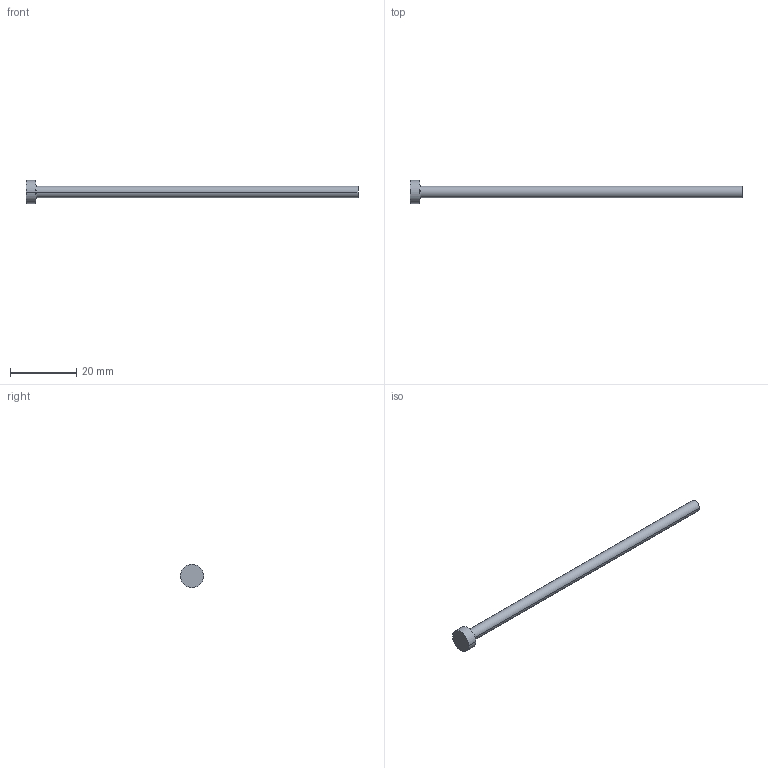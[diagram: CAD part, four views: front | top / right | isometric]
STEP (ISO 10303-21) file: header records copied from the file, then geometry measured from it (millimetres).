
FILE_DESCRIPTION (( 'STEP AP214' ), '1' );
FILE_NAME ('A-3,5x100.STEP', '2020-05-28T17:27:51', ( 'August' ), ( '' ), 'SwSTEP 2.0', 'SolidWorks 2018', '' );
FILE_SCHEMA (( 'AUTOMOTIVE_DESIGN' ));
Length unit declared in the file: millimetre
Products named in the file (1): A-3,5x100
Bounding box: 100 x 7 x 7 mm (x, y, z)
Volume: 1048.9 mm3; surface area: 1208.1 mm2
Topology: 1 solids, 1 shells, 9 faces, 16 edges, 10 vertices
Faces by surface type: cylinder 4, plane 3, torus 2
Entity records: 260 total; most frequent: DIRECTION 48, CARTESIAN_POINT 36, ORIENTED_EDGE 32, AXIS2_PLACEMENT_3D 22, EDGE_CURVE 16, CIRCLE 12, VERTEX_POINT 10, EDGE_LOOP 10
